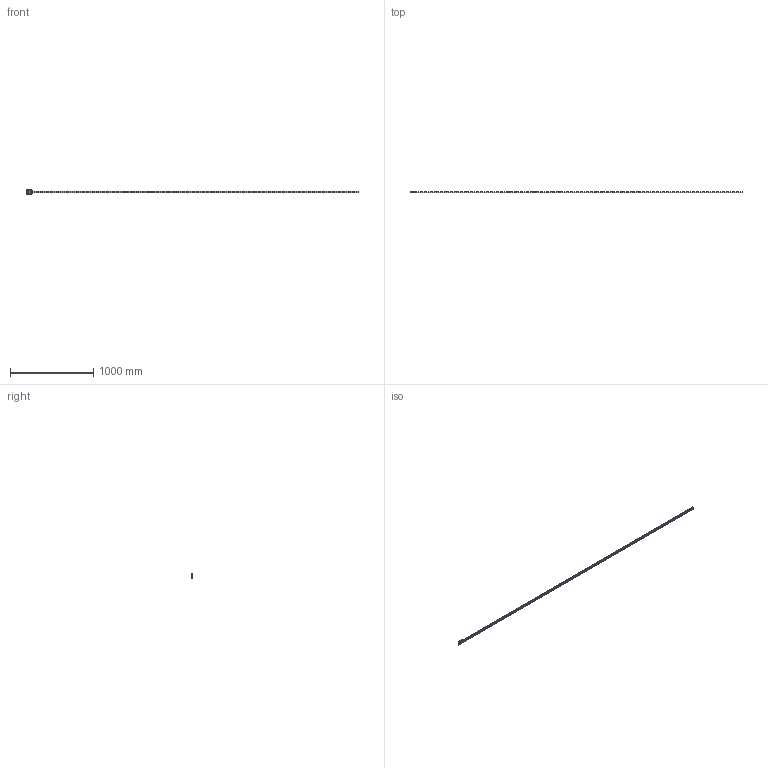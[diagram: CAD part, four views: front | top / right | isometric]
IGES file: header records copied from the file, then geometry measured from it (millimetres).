
Start section: Data from Parasolid IGES Translator 20.0.26, Copyright(c) 2006 Siemens P LM Software. All Rights Reserved.
Global section: file name: FDG12 84495LN_4000-0-0.igs; native system: By Siemens PLM Incorporated; preprocessor: XPlus GENERIC/IGES 20.0.26; author: Noname; organization: Noname; date: 20220623.025005; units: millimetre
Bounding box: 4000 x 19 x 48.8 mm (x, y, z)
Surface area: 502406.4 mm2 (no closed solid volume)
Topology: 0 solids, 0 shells, 1054 faces, 5052 edges, 4631 vertices
Faces by surface type: extrusion 541, revolution 513
